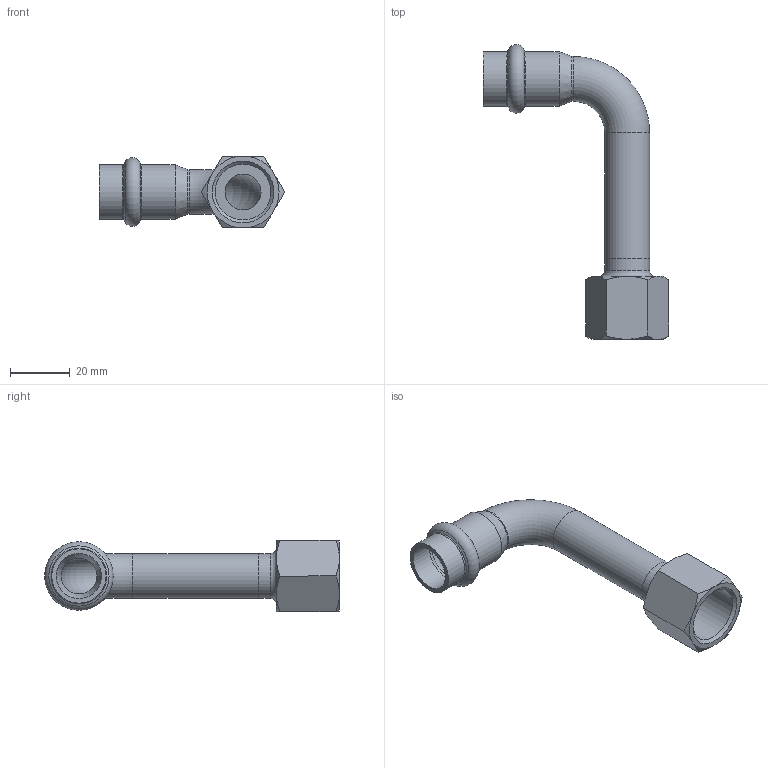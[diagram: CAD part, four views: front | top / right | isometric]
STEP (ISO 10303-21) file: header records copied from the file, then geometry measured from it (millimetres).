
FILE_DESCRIPTION((''),'2;1');
FILE_NAME('G:\Nirosan-Schmiedefeld\Technics\CAD\Bauteile VA\015\69002G1512(1).stp','2011-10-26T11:43:35',('herberg'),(''),'Autodesk Inventor 2009','Autodesk Inventor 2009','');
FILE_SCHEMA(('AUTOMOTIVE_DESIGN { 1 0 10303 214 1 1 1 1 }'));
Length unit declared in the file: millimetre
Products named in the file (3): 69002G1512(1); 69001A15(1); IG1512(1)
Assembly tree (2 placements, depth 2):
  69002G1512(1)
    69001A15(1)
    IG1512(1)
Bounding box: 61.86 x 98.44 x 24 mm (x, y, z)
Volume: 12665.1 mm3; surface area: 13644.3 mm2
Topology: 2 solids, 2 shells, 49 faces, 101 edges, 58 vertices
Faces by surface type: cone 17, plane 11, cylinder 9, bspline 7, torus 5
Full cylindrical faces by diameter (mm): 12 x2, 15 x3, 15.15 x2, 18.15 x2
Entity records: 1400 total; most frequent: CARTESIAN_POINT 477, DIRECTION 184, ORIENTED_EDGE 144, AXIS2_PLACEMENT_3D 89, EDGE_LOOP 80, EDGE_CURVE 72, VERTEX_POINT 54, FACE_OUTER_BOUND 49
